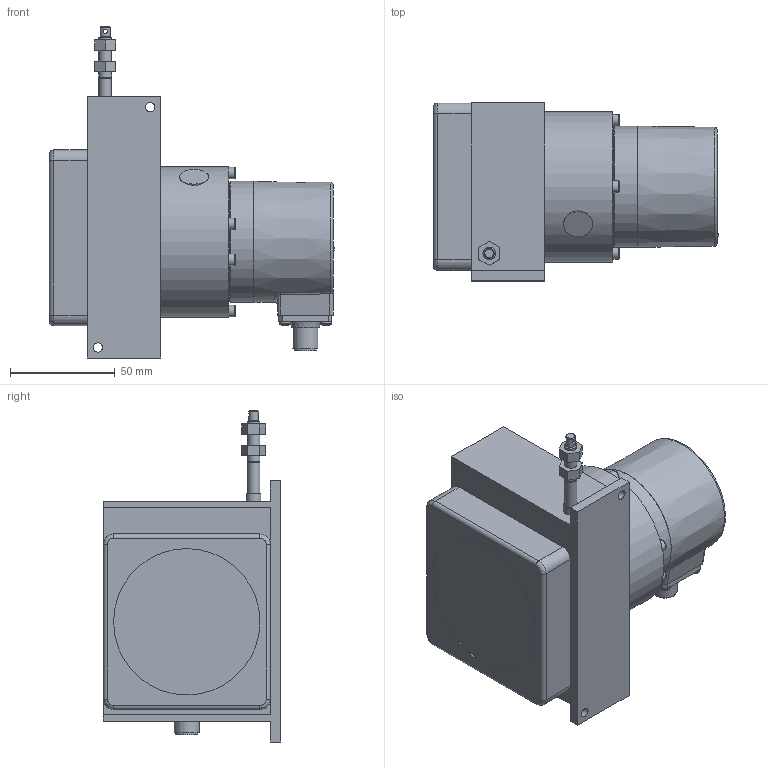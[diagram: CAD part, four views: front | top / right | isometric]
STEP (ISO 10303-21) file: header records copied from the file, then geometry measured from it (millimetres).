
FILE_DESCRIPTION (( 'STEP AP203' ), '1' );
FILE_NAME ('D8.1106.F326.G223.STEP', '2017-01-16T14:19:54', ( '' ), ( '' ), 'SwSTEP 2.0', 'SolidWorks 2013', '' );
FILE_SCHEMA (( 'CONFIG_CONTROL_DESIGN' ));
Length unit declared in the file: millimetre
Products named in the file (1): D8.1106.F326.G223
Bounding box: 136.4 x 85 x 158.8 mm (x, y, z)
Volume: 593192.6 mm3; surface area: 125059.6 mm2
Topology: 23 solids, 23 shells, 632 faces, 1475 edges, 930 vertices
Faces by surface type: plane 257, cylinder 173, cone 100, bspline 45, torus 43, sphere 14
Full cylindrical faces by diameter (mm): 0.54 x1, 0.8 x8, 2.05 x10, 2.1 x1, 2.2 x5, 2.5 x4, 2.6 x6, 2.7 x4, 2.9 x1, 3 x2, 3.2 x1, 3.3 x3, 3.5 x1, 4.5 x2, 4.7 x1, 5 x4, 5.1 x2, 5.2 x1, 5.5 x6, 6 x5, 6.8 x1, 7 x1, 7.9 x1, 8 x1, 8.1 x1, 9.7 x1, 10 x1, 10.5 x1, 12 x1, 12.1 x1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
Entity records: 17911 total; most frequent: CARTESIAN_POINT 5008, DIRECTION 2688, ORIENTED_EDGE 2332, EDGE_CURVE 1166, AXIS2_PLACEMENT_3D 1135, EDGE_LOOP 920, VERTEX_POINT 846, FACE_OUTER_BOUND 772
